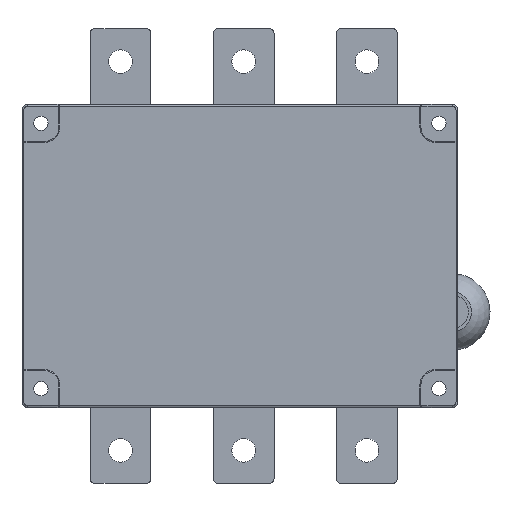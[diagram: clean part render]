
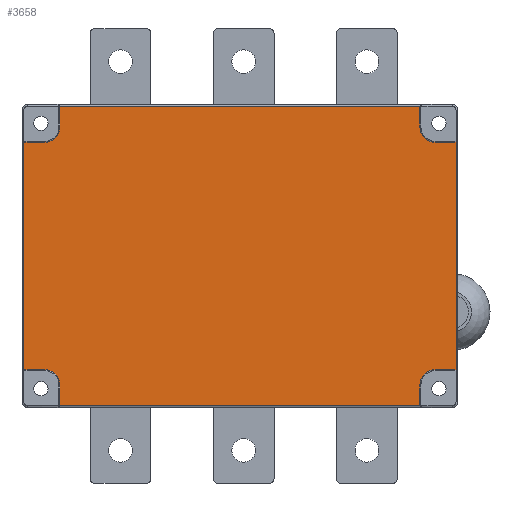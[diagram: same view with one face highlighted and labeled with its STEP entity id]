
A CAD part, front view. The second image highlights one B-rep face of the part: STEP entity #3658.
In plain terms, the highlighted planar face has unit normal (0, -1, 0).
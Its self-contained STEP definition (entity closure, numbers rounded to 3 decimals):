
#633=CARTESIAN_POINT('',(-114.,2.,-60.));
#647=DIRECTION('',(0.,0.,-1.));
#648=VECTOR('',#647,120.);
#649=CARTESIAN_POINT('',(-114.,2.,60.));
#650=LINE('',#649,#648);
#664=DIRECTION('',(0.,0.,-1.));
#665=VECTOR('',#664,11.);
#666=CARTESIAN_POINT('',(95.,2.,79.));
#667=LINE('',#666,#665);
#668=CARTESIAN_POINT('',(103.,2.,68.));
#669=DIRECTION('',(0.,-1.,0.));
#670=DIRECTION('',(-1.,0.,0.));
#671=AXIS2_PLACEMENT_3D('',#668,#669,#670);
#673=DIRECTION('',(1.,0.,0.));
#674=VECTOR('',#673,11.);
#675=CARTESIAN_POINT('',(103.,2.,60.));
#676=LINE('',#675,#674);
#677=DIRECTION('',(-1.,0.,0.));
#678=VECTOR('',#677,11.);
#679=CARTESIAN_POINT('',(114.,2.,-60.));
#680=LINE('',#679,#678);
#681=CARTESIAN_POINT('',(103.,2.,-68.));
#682=DIRECTION('',(0.,-1.,0.));
#683=DIRECTION('',(0.,0.,1.));
#684=AXIS2_PLACEMENT_3D('',#681,#682,#683);
#686=DIRECTION('',(0.,0.,-1.));
#687=VECTOR('',#686,11.);
#688=CARTESIAN_POINT('',(95.,2.,-68.));
#689=LINE('',#688,#687);
#690=DIRECTION('',(0.,0.,1.));
#691=VECTOR('',#690,11.);
#692=CARTESIAN_POINT('',(-95.,2.,-79.));
#693=LINE('',#692,#691);
#694=CARTESIAN_POINT('',(-103.,2.,-68.));
#695=DIRECTION('',(0.,-1.,0.));
#696=DIRECTION('',(1.,0.,0.));
#697=AXIS2_PLACEMENT_3D('',#694,#695,#696);
#699=DIRECTION('',(-1.,0.,0.));
#700=VECTOR('',#699,11.);
#701=CARTESIAN_POINT('',(-103.,2.,-60.));
#702=LINE('',#701,#700);
#703=DIRECTION('',(1.,0.,0.));
#704=VECTOR('',#703,11.);
#705=CARTESIAN_POINT('',(-114.,2.,60.));
#706=LINE('',#705,#704);
#707=CARTESIAN_POINT('',(-103.,2.,68.));
#708=DIRECTION('',(0.,-1.,0.));
#709=DIRECTION('',(0.,0.,-1.));
#710=AXIS2_PLACEMENT_3D('',#707,#708,#709);
#712=DIRECTION('',(0.,0.,1.));
#713=VECTOR('',#712,11.);
#714=CARTESIAN_POINT('',(-95.,2.,68.));
#715=LINE('',#714,#713);
#716=DIRECTION('',(-1.,0.,0.));
#717=VECTOR('',#716,190.);
#718=CARTESIAN_POINT('',(95.,2.,79.));
#719=LINE('',#718,#717);
#1641=DIRECTION('',(0.,0.,1.));
#1642=VECTOR('',#1641,120.);
#1643=CARTESIAN_POINT('',(114.,2.,-60.));
#1644=LINE('',#1643,#1642);
#1764=DIRECTION('',(1.,0.,0.));
#1765=VECTOR('',#1764,190.);
#1766=CARTESIAN_POINT('',(-95.,2.,
-79.));
#1767=LINE('',#1766,#1765);
#2016=CARTESIAN_POINT('',(-114.,2.,60.));
#2018=VERTEX_POINT('',#2016);
#2021=CARTESIAN_POINT('',(-103.,2.,60.));
#2022=VERTEX_POINT('',#2021);
#2233=VERTEX_POINT('',#633);
#2234=CARTESIAN_POINT('',(95.,2.,79.));
#2235=CARTESIAN_POINT('',(-95.,2.,79.));
#2236=VERTEX_POINT('',#2234);
#2237=VERTEX_POINT('',#2235);
#2238=CARTESIAN_POINT('',(95.,2.,68.));
#2239=VERTEX_POINT('',#2238);
#2240=CARTESIAN_POINT('',(103.,2.,60.));
#2241=VERTEX_POINT('',#2240);
#2242=CARTESIAN_POINT('',(114.,2.,60.));
#2243=VERTEX_POINT('',#2242);
#2244=CARTESIAN_POINT('',(114.,2.,-60.));
#2245=VERTEX_POINT('',#2244);
#2246=CARTESIAN_POINT('',(103.,2.,-60.));
#2247=VERTEX_POINT('',#2246);
#2248=CARTESIAN_POINT('',(95.,2.,-68.));
#2249=VERTEX_POINT('',#2248);
#2250=CARTESIAN_POINT('',(95.,2.,-79.));
#2251=VERTEX_POINT('',#2250);
#2252=CARTESIAN_POINT('',(-95.,2.,
-79.));
#2253=VERTEX_POINT('',#2252);
#2254=CARTESIAN_POINT('',(-95.,2.,
-68.));
#2255=VERTEX_POINT('',#2254);
#2256=CARTESIAN_POINT('',(-103.,2.,-60.));
#2257=VERTEX_POINT('',#2256);
#2258=CARTESIAN_POINT('',(-95.,2.,68.));
#2259=VERTEX_POINT('',#2258);
#3621=CARTESIAN_POINT('',(0.,2.,0.));
#3622=DIRECTION('',(0.,-1.,0.));
#3623=DIRECTION('',(-1.,0.,0.));
#3624=AXIS2_PLACEMENT_3D('',#3621,#3622,#3623);
#3625=PLANE('',#3624);
#3627=ORIENTED_EDGE('',*,*,#3626,.F.);
#3629=ORIENTED_EDGE('',*,*,#3628,.T.);
#3631=ORIENTED_EDGE('',*,*,#3630,.T.);
#3633=ORIENTED_EDGE('',*,*,#3632,.T.);
#3635=ORIENTED_EDGE('',*,*,#3634,.F.);
#3637=ORIENTED_EDGE('',*,*,#3636,.T.);
#3639=ORIENTED_EDGE('',*,*,#3638,.T.);
#3641=ORIENTED_EDGE('',*,*,#3640,.T.);
#3643=ORIENTED_EDGE('',*,*,#3642,.F.);
#3645=ORIENTED_EDGE('',*,*,#3644,.T.);
#3647=ORIENTED_EDGE('',*,*,#3646,.T.);
#3649=ORIENTED_EDGE('',*,*,#3648,.T.);
#3650=ORIENTED_EDGE('',*,*,#3613,.F.);
#3651=ORIENTED_EDGE('',*,*,#2591,.T.);
#3653=ORIENTED_EDGE('',*,*,#3652,.T.);
#3655=ORIENTED_EDGE('',*,*,#3654,.T.);
#3656=EDGE_LOOP('',(#3627,#3629,#3631,#3633,#3635,#3637,#3639,#3641,#3643,#3645,
#3647,#3649,#3650,#3651,#3653,#3655));
#3657=FACE_OUTER_BOUND('',#3656,.F.);
#672=CIRCLE('',#671,8.);
#685=CIRCLE('',#684,8.);
#698=CIRCLE('',#697,8.);
#711=CIRCLE('',#710,8.);
#2591=EDGE_CURVE('',#2018,#2022,#706,.T.);
#3613=EDGE_CURVE('',#2018,#2233,#650,.T.);
#3626=EDGE_CURVE('',#2236,#2237,#719,.T.);
#3628=EDGE_CURVE('',#2236,#2239,#667,.T.);
#3630=EDGE_CURVE('',#2239,#2241,#672,.T.);
#3632=EDGE_CURVE('',#2241,#2243,#676,.T.);
#3634=EDGE_CURVE('',#2245,#2243,#1644,.T.);
#3636=EDGE_CURVE('',#2245,#2247,#680,.T.);
#3638=EDGE_CURVE('',#2247,#2249,#685,.T.);
#3640=EDGE_CURVE('',#2249,#2251,#689,.T.);
#3642=EDGE_CURVE('',#2253,#2251,#1767,.T.);
#3644=EDGE_CURVE('',#2253,#2255,#693,.T.);
#3646=EDGE_CURVE('',#2255,#2257,#698,.T.);
#3648=EDGE_CURVE('',#2257,#2233,#702,.T.);
#3652=EDGE_CURVE('',#2022,#2259,#711,.T.);
#3654=EDGE_CURVE('',#2259,#2237,#715,.T.);
#3658=ADVANCED_FACE('',(#3657),#3625,.T.);
